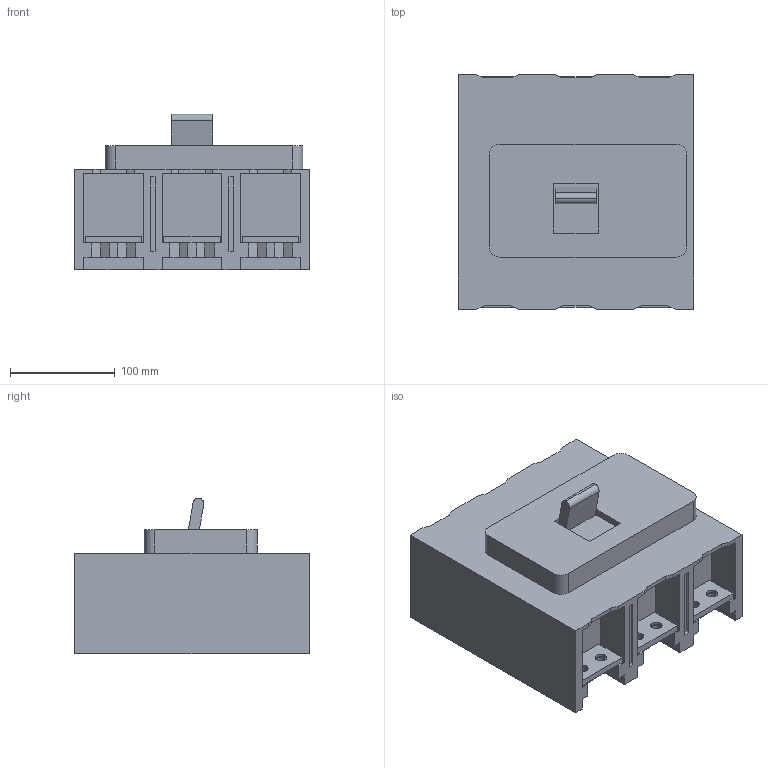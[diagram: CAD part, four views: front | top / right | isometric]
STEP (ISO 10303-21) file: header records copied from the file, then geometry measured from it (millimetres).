
FILE_DESCRIPTION (( 'STEP AP214' ), '1' );
FILE_NAME ('10 (2).STEP', '2023-08-08T08:24:10', ( '' ), ( '' ), 'SwSTEP 2.0', 'SolidWorks 2018', '' );
FILE_SCHEMA (( 'AUTOMOTIVE_DESIGN' ));
Length unit declared in the file: millimetre
Products named in the file (1): 10 (2)
Bounding box: 225 x 224 x 148.66 mm (x, y, z)
Volume: 4375069.3 mm3; surface area: 269147.2 mm2
Topology: 2 solids, 2 shells, 287 faces, 771 edges, 510 vertices
Faces by surface type: plane 225, cylinder 62
Entity records: 9820 total; most frequent: CARTESIAN_POINT 1569, ORIENTED_EDGE 1542, DIRECTION 1471, EDGE_CURVE 771, LINE 647, VECTOR 647, VERTEX_POINT 510, AXIS2_PLACEMENT_3D 412
